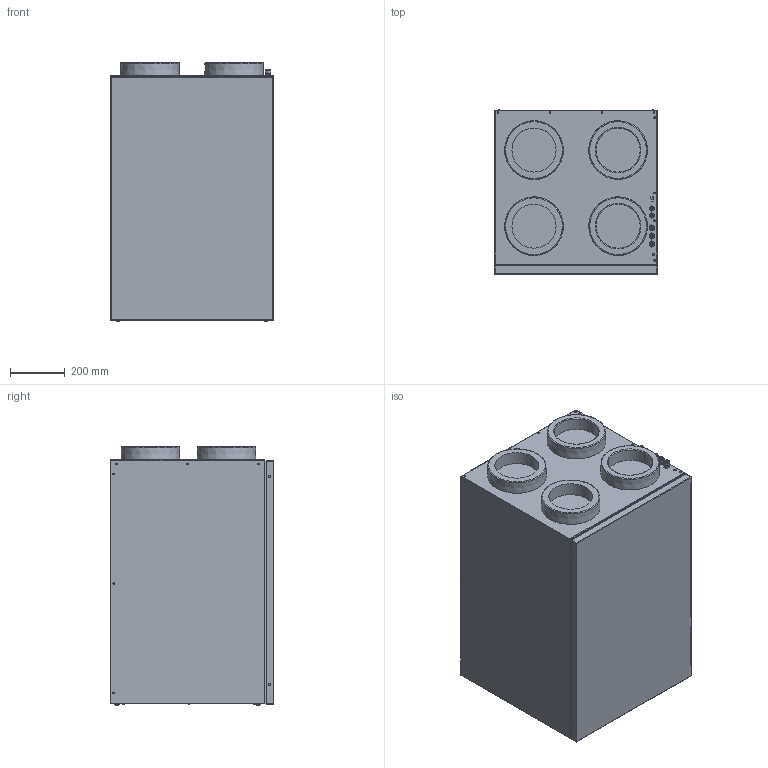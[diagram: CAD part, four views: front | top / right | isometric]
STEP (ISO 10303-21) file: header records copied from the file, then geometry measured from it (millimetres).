
FILE_DESCRIPTION(/* description */ (''),/* implementation_level */ '2;1');
FILE_NAME(/* name */ 'I:\Working Folder\Designs\Projects\Thomas Mønsted\ECO 375 .stp',/* time_stamp */ '2017-02-02T10:53:24+01:00',/* author */ ('kgthm'),/* organization */ (''),/* preprocessor_version */ 'ST-DEVELOPER v16.1',/* originating_system */ 'Autodesk Inventor 2016',/* authorisation */ '');
FILE_SCHEMA (('AUTOMOTIVE_DESIGN { 1 0 10303 214 3 1 1 }'));
Length unit declared in the file: millimetre
Products named in the file (1): ECO 375 - Model
Bounding box: 596.99 x 598.66 x 946.3 mm (x, y, z)
Volume: 319332901.3 mm3; surface area: 3161708.9 mm2
Topology: 1 solids, 16 shells, 591 faces, 1289 edges, 826 vertices
Faces by surface type: plane 281, cylinder 146, torus 83, cone 36, bspline 35, sphere 10
Full cylindrical faces by diameter (mm): 3.8 x4, 6 x13, 6.3 x24, 6.5 x8, 6.6 x4, 7.8 x4, 8 x4, 8.8 x4, 9 x4, 10.5 x8, 12 x4, 14 x2, 15 x2, 17.5 x3, 19 x3, 40 x1, 75 x1, 161 x4
Entity records: 15791 total; most frequent: CARTESIAN_POINT 3526, DIRECTION 2535, ORIENTED_EDGE 1952, AXIS2_PLACEMENT_3D 1039, EDGE_CURVE 976, EDGE_LOOP 931, VERTEX_POINT 731, FACE_OUTER_BOUND 591
